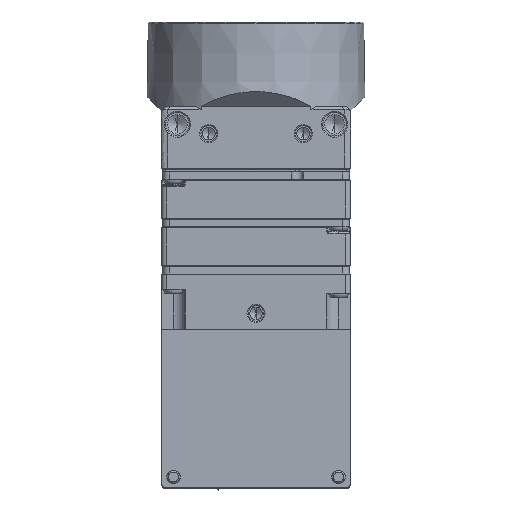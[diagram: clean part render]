
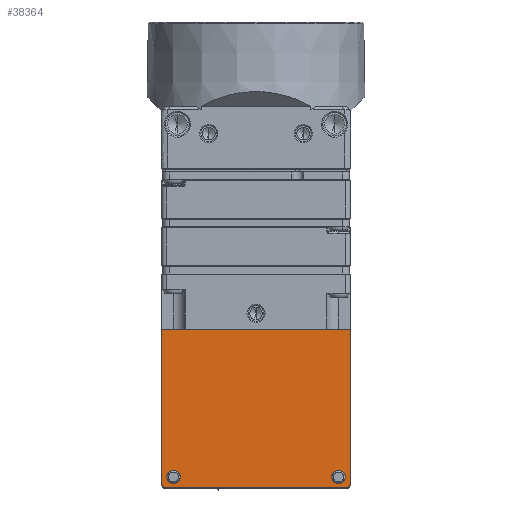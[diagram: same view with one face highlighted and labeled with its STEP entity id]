
A CAD part, front view. The second image highlights one B-rep face of the part: STEP entity #38364.
In plain terms, the highlighted planar face has unit normal (0, -1, 0).
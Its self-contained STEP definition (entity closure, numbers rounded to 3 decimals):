
#651 = EDGE_CURVE ( 'NONE', #120023, #51598, #21220, .T. ) ;
#3675 = CARTESIAN_POINT ( 'NONE',  ( -10.5, 6.5, -39.15 ) ) ;
#4482 = DIRECTION ( 'NONE',  ( 0., 0., -1. ) ) ;
#8973 = DIRECTION ( 'NONE',  ( 0., 0., 1. ) ) ;
#10392 = DIRECTION ( 'NONE',  ( 0., 0., -1. ) ) ;
#11241 = AXIS2_PLACEMENT_3D ( 'NONE', #3675, #43384, #4482 ) ;
#11365 = VERTEX_POINT ( 'NONE', #79616 ) ;
#13452 = CIRCLE ( 'NONE', #98049, 0.85 ) ;
#13793 = FACE_OUTER_BOUND ( 'NONE', #55948, .T. ) ;
#18172 = ORIENTED_EDGE ( 'NONE', *, *, #146498, .F. ) ;
#18450 = DIRECTION ( 'NONE',  ( 0., 0., -1. ) ) ;
#21220 = CIRCLE ( 'NONE', #113685, 0.6 ) ;
#21404 = LINE ( 'NONE', #122301, #90373 ) ;
#21949 = DIRECTION ( 'NONE',  ( 0., 0., -1. ) ) ;
#22083 = CARTESIAN_POINT ( 'NONE',  ( -12., 6.5, -39.95 ) ) ;
#22708 = EDGE_LOOP ( 'NONE', ( #158796, #130065 ) ) ;
#22801 = DIRECTION ( 'NONE',  ( 0., -1., 0. ) ) ;
#24873 = CARTESIAN_POINT ( 'NONE',  ( 11.4, 6.5, -40.55 ) ) ;
#29788 = VERTEX_POINT ( 'NONE', #66384 ) ;
#33545 = AXIS2_PLACEMENT_3D ( 'NONE', #151963, #104765, #66664 ) ;
#35408 = DIRECTION ( 'NONE',  ( 0., -1., 0. ) ) ;
#38101 = EDGE_CURVE ( 'NONE', #100421, #59578, #76865, .T. ) ;
#38275 = CARTESIAN_POINT ( 'NONE',  ( -10.5, 6.5, -38.3 ) ) ;
#38364 = ADVANCED_FACE ( 'NONE', ( #52652, #116373, #13793 ), #130371, .T. ) ;
#43384 = DIRECTION ( 'NONE',  ( 0., -1., 0. ) ) ;
#46546 = EDGE_CURVE ( 'NONE', #94459, #11365, #82561, .T. ) ;
#49972 = EDGE_CURVE ( 'NONE', #11365, #94459, #146904, .T. ) ;
#51598 = VERTEX_POINT ( 'NONE', #97075 ) ;
#51632 = CARTESIAN_POINT ( 'NONE',  ( -12., 6.5, -40.55 ) ) ;
#52652 = FACE_BOUND ( 'NONE', #152471, .T. ) ;
#53120 = ORIENTED_EDGE ( 'NONE', *, *, #46546, .F. ) ;
#55948 = EDGE_LOOP ( 'NONE', ( #105677, #113822, #61600, #96953, #18172, #136563 ) ) ;
#57022 = AXIS2_PLACEMENT_3D ( 'NONE', #159465, #35408, #161933 ) ;
#57242 = VECTOR ( 'NONE', #152965, 1000. ) ;
#58738 = LINE ( 'NONE', #81962, #162045 ) ;
#59578 = VERTEX_POINT ( 'NONE', #150413 ) ;
#61600 = ORIENTED_EDGE ( 'NONE', *, *, #38101, .F. ) ;
#63040 = CIRCLE ( 'NONE', #152814, 0.6 ) ;
#63227 = DIRECTION ( 'NONE',  ( -1., 0., 0. ) ) ;
#64388 = VERTEX_POINT ( 'NONE', #78309 ) ;
#64432 = CARTESIAN_POINT ( 'NONE',  ( 12., 6.5, -16.55 ) ) ;
#64943 = CARTESIAN_POINT ( 'NONE',  ( -11.4, 6.5, -39.95 ) ) ;
#66384 = CARTESIAN_POINT ( 'NONE',  ( 10.5, 6.5, -40. ) ) ;
#66664 = DIRECTION ( 'NONE',  ( 0., 0., -1. ) ) ;
#74833 = DIRECTION ( 'NONE',  ( 0., -1., 0. ) ) ;
#76231 = CARTESIAN_POINT ( 'NONE',  ( 12., 6.5, -20.35 ) ) ;
#76865 = LINE ( 'NONE', #64432, #57242 ) ;
#78309 = CARTESIAN_POINT ( 'NONE',  ( -12., 6.5, -20.35 ) ) ;
#79052 = VECTOR ( 'NONE', #63227, 1000. ) ;
#79616 = CARTESIAN_POINT ( 'NONE',  ( -10.5, 6.5, -40. ) ) ;
#81962 = CARTESIAN_POINT ( 'NONE',  ( 0., 6.5, -20.35 ) ) ;
#82561 = CIRCLE ( 'NONE', #11241, 0.85 ) ;
#89209 = CARTESIAN_POINT ( 'NONE',  ( 10.5, 6.5, -38.3 ) ) ;
#90373 = VECTOR ( 'NONE', #8973, 1000. ) ;
#92825 = EDGE_CURVE ( 'NONE', #154697, #51598, #137715, .T. ) ;
#94459 = VERTEX_POINT ( 'NONE', #38275 ) ;
#96744 = AXIS2_PLACEMENT_3D ( 'NONE', #135292, #22801, #10392 ) ;
#96953 = ORIENTED_EDGE ( 'NONE', *, *, #123499, .T. ) ;
#97075 = CARTESIAN_POINT ( 'NONE',  ( -11.4, 6.5, -40.55 ) ) ;
#98049 = AXIS2_PLACEMENT_3D ( 'NONE', #160074, #74833, #21949 ) ;
#100421 = VERTEX_POINT ( 'NONE', #76231 ) ;
#104765 = DIRECTION ( 'NONE',  ( 0., -1., 0. ) ) ;
#105677 = ORIENTED_EDGE ( 'NONE', *, *, #92825, .F. ) ;
#106050 = EDGE_CURVE ( 'NONE', #29788, #132024, #117880, .T. ) ;
#107596 = DIRECTION ( 'NONE',  ( -1., 0., 0. ) ) ;
#109754 = EDGE_CURVE ( 'NONE', #154697, #59578, #63040, .T. ) ;
#112223 = EDGE_CURVE ( 'NONE', #132024, #29788, #13452, .T. ) ;
#113685 = AXIS2_PLACEMENT_3D ( 'NONE', #64943, #158151, #145765 ) ;
#113822 = ORIENTED_EDGE ( 'NONE', *, *, #109754, .T. ) ;
#116373 = FACE_BOUND ( 'NONE', #22708, .T. ) ;
#117880 = CIRCLE ( 'NONE', #96744, 0.85 ) ;
#120023 = VERTEX_POINT ( 'NONE', #22083 ) ;
#122301 = CARTESIAN_POINT ( 'NONE',  ( -12., 6.5, -16.55 ) ) ;
#123499 = EDGE_CURVE ( 'NONE', #100421, #64388, #58738, .T. ) ;
#130065 = ORIENTED_EDGE ( 'NONE', *, *, #106050, .F. ) ;
#130371 = PLANE ( 'NONE',  #33545 ) ;
#132024 = VERTEX_POINT ( 'NONE', #89209 ) ;
#135292 = CARTESIAN_POINT ( 'NONE',  ( 10.5, 6.5, -39.15 ) ) ;
#136563 = ORIENTED_EDGE ( 'NONE', *, *, #651, .T. ) ;
#137715 = LINE ( 'NONE', #51632, #79052 ) ;
#141889 = ORIENTED_EDGE ( 'NONE', *, *, #49972, .F. ) ;
#145765 = DIRECTION ( 'NONE',  ( 0., 0., -1. ) ) ;
#145799 = DIRECTION ( 'NONE',  ( 0., -1., 0. ) ) ;
#146498 = EDGE_CURVE ( 'NONE', #120023, #64388, #21404, .T. ) ;
#146904 = CIRCLE ( 'NONE', #57022, 0.85 ) ;
#150413 = CARTESIAN_POINT ( 'NONE',  ( 12., 6.5, -39.95 ) ) ;
#151963 = CARTESIAN_POINT ( 'NONE',  ( 0., 6.5, -16.85 ) ) ;
#152471 = EDGE_LOOP ( 'NONE', ( #53120, #141889 ) ) ;
#152814 = AXIS2_PLACEMENT_3D ( 'NONE', #158192, #145799, #18450 ) ;
#152965 = DIRECTION ( 'NONE',  ( 0., 0., -1. ) ) ;
#154697 = VERTEX_POINT ( 'NONE', #24873 ) ;
#158151 = DIRECTION ( 'NONE',  ( 0., -1., 0. ) ) ;
#158192 = CARTESIAN_POINT ( 'NONE',  ( 11.4, 6.5, -39.95 ) ) ;
#158796 = ORIENTED_EDGE ( 'NONE', *, *, #112223, .F. ) ;
#159465 = CARTESIAN_POINT ( 'NONE',  ( -10.5, 6.5, -39.15 ) ) ;
#160074 = CARTESIAN_POINT ( 'NONE',  ( 10.5, 6.5, -39.15 ) ) ;
#161933 = DIRECTION ( 'NONE',  ( 0., 0., -1. ) ) ;
#162045 = VECTOR ( 'NONE', #107596, 1000. ) ;
